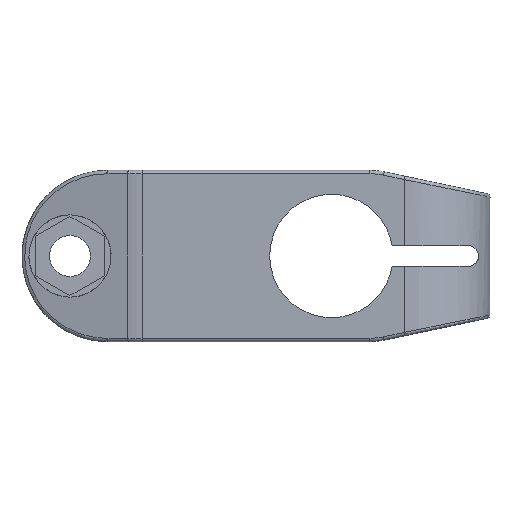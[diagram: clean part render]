
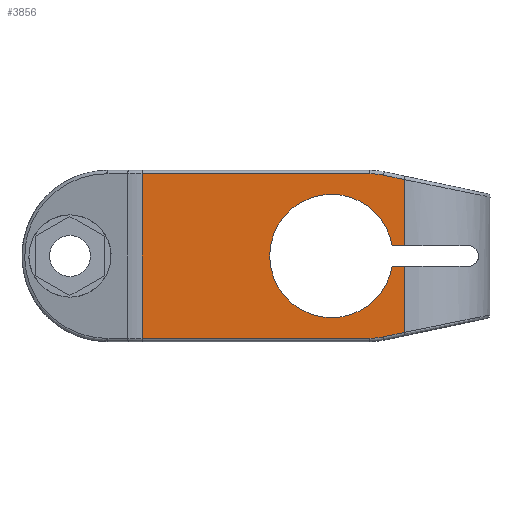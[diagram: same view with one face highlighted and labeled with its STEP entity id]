
A CAD part, front view. The second image highlights one B-rep face of the part: STEP entity #3856.
In plain terms, the highlighted planar face has unit normal (0, -1, 0).
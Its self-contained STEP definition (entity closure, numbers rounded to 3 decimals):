
#18 = LINE ( 'NONE', #266, #426 ) ;
#30 = CARTESIAN_POINT ( 'NONE',  ( -16.633, -12.5, -12.5 ) ) ;
#59 = EDGE_LOOP ( 'NONE', ( #3920, #391, #3412, #3138, #2686, #3336, #1932, #1018, #1449, #3109, #3632, #2236, #3963, #3387 ) ) ;
#119 = AXIS2_PLACEMENT_3D ( 'NONE', #588, #2376, #3606 ) ;
#180 = CARTESIAN_POINT ( 'NONE',  ( 21.65, -12.5, 11.146 ) ) ;
#186 = CARTESIAN_POINT ( 'NONE',  ( 11., -12.5, 0. ) ) ;
#215 = VERTEX_POINT ( 'NONE', #1678 ) ;
#229 = VERTEX_POINT ( 'NONE', #1689 ) ;
#266 = CARTESIAN_POINT ( 'NONE',  ( 31., -12.5, 1.5 ) ) ;
#286 = EDGE_CURVE ( 'NONE', #3229, #2724, #853, .T. ) ;
#314 = DIRECTION ( 'NONE',  ( 0., 1., 0. ) ) ;
#358 = VERTEX_POINT ( 'NONE', #180 ) ;
#381 = VERTEX_POINT ( 'NONE', #2379 ) ;
#391 = ORIENTED_EDGE ( 'NONE', *, *, #2407, .T. ) ;
#402 = VECTOR ( 'NONE', #3235, 1000. ) ;
#426 = VECTOR ( 'NONE', #3341, 1000. ) ;
#588 = CARTESIAN_POINT ( 'NONE',  ( 11., -12.5, 0. ) ) ;
#614 = CARTESIAN_POINT ( 'NONE',  ( 19.874, -12.5, -1.5 ) ) ;
#626 = EDGE_CURVE ( 'NONE', #2209, #1804, #1212, .T. ) ;
#669 = CARTESIAN_POINT ( 'NONE',  ( 21.65, -12.5, -11.146 ) ) ;
#677 = CIRCLE ( 'NONE', #119, 9. ) ;
#731 = VERTEX_POINT ( 'NONE', #2821 ) ;
#739 = LINE ( 'NONE', #817, #402 ) ;
#809 = DIRECTION ( 'NONE',  ( -1., 0., 0. ) ) ;
#817 = CARTESIAN_POINT ( 'NONE',  ( 31., -12.5, -1.5 ) ) ;
#853 = LINE ( 'NONE', #1385, #3104 ) ;
#923 = CARTESIAN_POINT ( 'NONE',  ( 19.874, -12.5, 1.5 ) ) ;
#973 = EDGE_CURVE ( 'NONE', #2209, #1412, #1217, .T. ) ;
#998 = CARTESIAN_POINT ( 'NONE',  ( 21.65, -12.5, -1.5 ) ) ;
#1018 = ORIENTED_EDGE ( 'NONE', *, *, #3067, .T. ) ;
#1176 = AXIS2_PLACEMENT_3D ( 'NONE', #2382, #3298, #1215 ) ;
#1212 = LINE ( 'NONE', #30, #2302 ) ;
#1215 = DIRECTION ( 'NONE',  ( 0., 0., 1. ) ) ;
#1217 = LINE ( 'NONE', #1416, #2929 ) ;
#1329 = EDGE_CURVE ( 'NONE', #1377, #229, #18, .T. ) ;
#1377 = VERTEX_POINT ( 'NONE', #923 ) ;
#1385 = CARTESIAN_POINT ( 'NONE',  ( 21.65, -12.5, 12.5 ) ) ;
#1412 = VERTEX_POINT ( 'NONE', #3706 ) ;
#1416 = CARTESIAN_POINT ( 'NONE',  ( -21.65, -12.5, -12. ) ) ;
#1449 = ORIENTED_EDGE ( 'NONE', *, *, #626, .F. ) ;
#1460 = DIRECTION ( 'NONE',  ( -0.978, 0., 0.208 ) ) ;
#1538 = CARTESIAN_POINT ( 'NONE',  ( -16.633, -12.5, 12. ) ) ;
#1553 = AXIS2_PLACEMENT_3D ( 'NONE', #4033, #314, #3713 ) ;
#1636 = EDGE_CURVE ( 'NONE', #3229, #3862, #739, .T. ) ;
#1642 = EDGE_CURVE ( 'NONE', #381, #2759, #2458, .T. ) ;
#1678 = CARTESIAN_POINT ( 'NONE',  ( 11., -12.5, -9. ) ) ;
#1689 = CARTESIAN_POINT ( 'NONE',  ( 21.65, -12.5, 1.5 ) ) ;
#1707 = DIRECTION ( 'NONE',  ( 0., 0., 1. ) ) ;
#1722 = VECTOR ( 'NONE', #3367, 1000. ) ;
#1731 = CARTESIAN_POINT ( 'NONE',  ( -17.512, -12.5, 19.47 ) ) ;
#1738 = AXIS2_PLACEMENT_3D ( 'NONE', #186, #2977, #3600 ) ;
#1804 = VERTEX_POINT ( 'NONE', #1538 ) ;
#1904 = CARTESIAN_POINT ( 'NONE',  ( 16.633, -12.5, -2.5 ) ) ;
#1932 = ORIENTED_EDGE ( 'NONE', *, *, #1642, .T. ) ;
#1994 = VECTOR ( 'NONE', #1460, 1000. ) ;
#2140 = EDGE_CURVE ( 'NONE', #2409, #1377, #677, .T. ) ;
#2192 = DIRECTION ( 'NONE',  ( 0., 0., 1. ) ) ;
#2209 = VERTEX_POINT ( 'NONE', #3656 ) ;
#2236 = ORIENTED_EDGE ( 'NONE', *, *, #2727, .T. ) ;
#2302 = VECTOR ( 'NONE', #2192, 1000. ) ;
#2314 = LINE ( 'NONE', #3559, #2594 ) ;
#2340 = FACE_OUTER_BOUND ( 'NONE', #59, .T. ) ;
#2341 = CARTESIAN_POINT ( 'NONE',  ( 11., -12.5, 9. ) ) ;
#2361 = CARTESIAN_POINT ( 'NONE',  ( 16.633, -12.5, 2.5 ) ) ;
#2376 = DIRECTION ( 'NONE',  ( 0., 1., 0. ) ) ;
#2379 = CARTESIAN_POINT ( 'NONE',  ( 18.608, -12.5, 11.792 ) ) ;
#2382 = CARTESIAN_POINT ( 'NONE',  ( 11., -12.5, 0. ) ) ;
#2407 = EDGE_CURVE ( 'NONE', #215, #2409, #3527, .T. ) ;
#2409 = VERTEX_POINT ( 'NONE', #2341 ) ;
#2447 = DIRECTION ( 'NONE',  ( 1., 0., 0. ) ) ;
#2452 = EDGE_CURVE ( 'NONE', #358, #229, #2314, .T. ) ;
#2458 = CIRCLE ( 'NONE', #2747, 9.5 ) ;
#2507 = CARTESIAN_POINT ( 'NONE',  ( -17.512, -12.5, -19.47 ) ) ;
#2580 = LINE ( 'NONE', #3625, #2928 ) ;
#2586 = DIRECTION ( 'NONE',  ( 0., 0., -1. ) ) ;
#2594 = VECTOR ( 'NONE', #2685, 1000. ) ;
#2673 = CIRCLE ( 'NONE', #1176, 9. ) ;
#2685 = DIRECTION ( 'NONE',  ( 0., 0., -1. ) ) ;
#2686 = ORIENTED_EDGE ( 'NONE', *, *, #2452, .F. ) ;
#2724 = VERTEX_POINT ( 'NONE', #669 ) ;
#2727 = EDGE_CURVE ( 'NONE', #731, #2724, #3360, .T. ) ;
#2747 = AXIS2_PLACEMENT_3D ( 'NONE', #2361, #3896, #1707 ) ;
#2758 = PLANE ( 'NONE',  #1553 ) ;
#2759 = VERTEX_POINT ( 'NONE', #3498 ) ;
#2821 = CARTESIAN_POINT ( 'NONE',  ( 18.608, -12.5, -11.792 ) ) ;
#2923 = LINE ( 'NONE', #1731, #1994 ) ;
#2928 = VECTOR ( 'NONE', #809, 1000. ) ;
#2929 = VECTOR ( 'NONE', #2447, 1000. ) ;
#2977 = DIRECTION ( 'NONE',  ( 0., 1., 0. ) ) ;
#3067 = EDGE_CURVE ( 'NONE', #2759, #1804, #2580, .T. ) ;
#3104 = VECTOR ( 'NONE', #2586, 1000. ) ;
#3109 = ORIENTED_EDGE ( 'NONE', *, *, #973, .T. ) ;
#3138 = ORIENTED_EDGE ( 'NONE', *, *, #1329, .T. ) ;
#3229 = VERTEX_POINT ( 'NONE', #998 ) ;
#3235 = DIRECTION ( 'NONE',  ( -1., 0., 0. ) ) ;
#3298 = DIRECTION ( 'NONE',  ( 0., 1., 0. ) ) ;
#3336 = ORIENTED_EDGE ( 'NONE', *, *, #3650, .T. ) ;
#3341 = DIRECTION ( 'NONE',  ( 1., 0., 0. ) ) ;
#3360 = LINE ( 'NONE', #2507, #1722 ) ;
#3367 = DIRECTION ( 'NONE',  ( 0.978, 0., 0.208 ) ) ;
#3387 = ORIENTED_EDGE ( 'NONE', *, *, #1636, .T. ) ;
#3412 = ORIENTED_EDGE ( 'NONE', *, *, #2140, .T. ) ;
#3498 = CARTESIAN_POINT ( 'NONE',  ( 16.633, -12.5, 12. ) ) ;
#3527 = CIRCLE ( 'NONE', #1738, 9. ) ;
#3559 = CARTESIAN_POINT ( 'NONE',  ( 21.65, -12.5, 12.5 ) ) ;
#3599 = CIRCLE ( 'NONE', #4005, 9.5 ) ;
#3600 = DIRECTION ( 'NONE',  ( 0., 0., 1. ) ) ;
#3606 = DIRECTION ( 'NONE',  ( 0., 0., 1. ) ) ;
#3625 = CARTESIAN_POINT ( 'NONE',  ( -21.65, -12.5, 12. ) ) ;
#3632 = ORIENTED_EDGE ( 'NONE', *, *, #3970, .T. ) ;
#3650 = EDGE_CURVE ( 'NONE', #358, #381, #2923, .T. ) ;
#3656 = CARTESIAN_POINT ( 'NONE',  ( -16.633, -12.5, -12. ) ) ;
#3706 = CARTESIAN_POINT ( 'NONE',  ( 16.633, -12.5, -12. ) ) ;
#3713 = DIRECTION ( 'NONE',  ( 0., 0., 1. ) ) ;
#3730 = DIRECTION ( 'NONE',  ( 0., 0., 1. ) ) ;
#3742 = EDGE_CURVE ( 'NONE', #3862, #215, #2673, .T. ) ;
#3757 = DIRECTION ( 'NONE',  ( 0., -1., 0. ) ) ;
#3856 = ADVANCED_FACE ( 'NONE', ( #2340 ), #2758, .F. ) ;
#3862 = VERTEX_POINT ( 'NONE', #614 ) ;
#3896 = DIRECTION ( 'NONE',  ( 0., -1., 0. ) ) ;
#3920 = ORIENTED_EDGE ( 'NONE', *, *, #3742, .T. ) ;
#3963 = ORIENTED_EDGE ( 'NONE', *, *, #286, .F. ) ;
#3970 = EDGE_CURVE ( 'NONE', #1412, #731, #3599, .T. ) ;
#4005 = AXIS2_PLACEMENT_3D ( 'NONE', #1904, #3757, #3730 ) ;
#4033 = CARTESIAN_POINT ( 'NONE',  ( -21.65, -12.5, 0. ) ) ;
